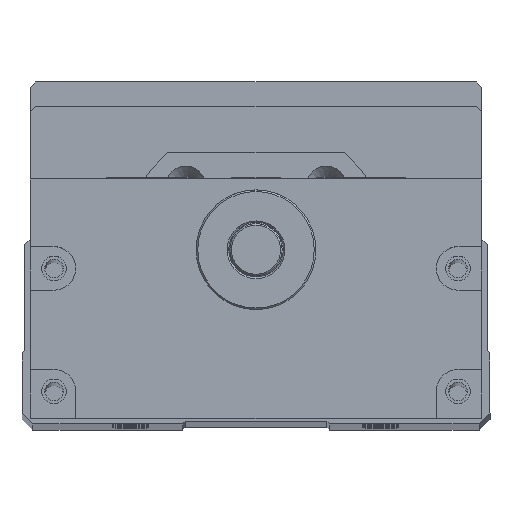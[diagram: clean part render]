
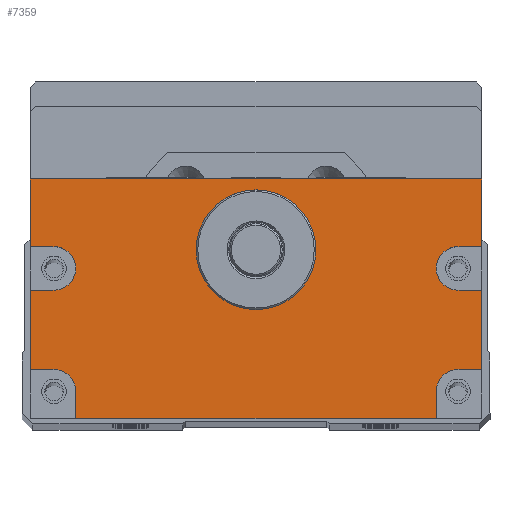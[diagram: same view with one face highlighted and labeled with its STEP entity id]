
A CAD part, top view. The second image highlights one B-rep face of the part: STEP entity #7359.
In plain terms, the highlighted planar face has unit normal (0, 0, 1).
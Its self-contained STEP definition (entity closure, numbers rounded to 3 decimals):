
#595=LINE('',#28877,#1312);
#597=LINE('',#28881,#1314);
#598=LINE('',#28884,#1315);
#599=LINE('',#28886,#1316);
#600=LINE('',#28890,#1317);
#601=LINE('',#28892,#1318);
#602=LINE('',#28893,#1319);
#603=LINE('',#28895,#1320);
#604=LINE('',#28899,#1321);
#605=LINE('',#28901,#1322);
#606=LINE('',#28903,#1323);
#607=LINE('',#28907,#1324);
#608=LINE('',#28909,#1325);
#609=LINE('',#28911,#1326);
#1312=VECTOR('',#17273,1.);
#1314=VECTOR('',#17277,1.);
#1315=VECTOR('',#17278,1.);
#1316=VECTOR('',#17279,1.);
#1317=VECTOR('',#17282,1.);
#1318=VECTOR('',#17283,1.);
#1319=VECTOR('',#17284,1.);
#1320=VECTOR('',#17285,1.);
#1321=VECTOR('',#17288,1.);
#1322=VECTOR('',#17289,1.);
#1323=VECTOR('',#17290,1.);
#1324=VECTOR('',#17293,1.);
#1325=VECTOR('',#17294,1.);
#1326=VECTOR('',#17295,1.);
#7359=ADVANCED_FACE('',(#8275,#8276),#7873,.T.);
#7873=PLANE('',#15719);
#8275=FACE_BOUND('',#8895,.T.);
#8276=FACE_BOUND('',#8896,.T.);
#8895=EDGE_LOOP('',(#10431,#10432,#10433,#10434,#10435,#10436,#10437,#10438,
#10439,#10440,#10441,#10442,#10443,#10444,#10445,#10446,#10447,#10448));
#8896=EDGE_LOOP('',(#10449));
#10431=ORIENTED_EDGE('',*,*,#13946,.F.);
#10432=ORIENTED_EDGE('',*,*,#13947,.T.);
#10433=ORIENTED_EDGE('',*,*,#13948,.F.);
#10434=ORIENTED_EDGE('',*,*,#13949,.F.);
#10435=ORIENTED_EDGE('',*,*,#13950,.F.);
#10436=ORIENTED_EDGE('',*,*,#13951,.T.);
#10437=ORIENTED_EDGE('',*,*,#13944,.T.);
#10438=ORIENTED_EDGE('',*,*,#13952,.T.);
#10439=ORIENTED_EDGE('',*,*,#13953,.F.);
#10440=ORIENTED_EDGE('',*,*,#13954,.F.);
#10441=ORIENTED_EDGE('',*,*,#13955,.F.);
#10442=ORIENTED_EDGE('',*,*,#13956,.T.);
#10443=ORIENTED_EDGE('',*,*,#13957,.F.);
#10444=ORIENTED_EDGE('',*,*,#13958,.F.);
#10445=ORIENTED_EDGE('',*,*,#13959,.F.);
#10446=ORIENTED_EDGE('',*,*,#13960,.T.);
#10447=ORIENTED_EDGE('',*,*,#13961,.F.);
#10448=ORIENTED_EDGE('',*,*,#13962,.F.);
#10449=ORIENTED_EDGE('',*,*,#13930,.T.);
#12761=VERTEX_POINT('',#28848);
#12774=VERTEX_POINT('',#28876);
#12775=VERTEX_POINT('',#28878);
#12776=VERTEX_POINT('',#28882);
#12777=VERTEX_POINT('',#28883);
#12778=VERTEX_POINT('',#28885);
#12779=VERTEX_POINT('',#28887);
#12780=VERTEX_POINT('',#28889);
#12781=VERTEX_POINT('',#28891);
#12782=VERTEX_POINT('',#28894);
#12783=VERTEX_POINT('',#28896);
#12784=VERTEX_POINT('',#28898);
#12785=VERTEX_POINT('',#28900);
#12786=VERTEX_POINT('',#28902);
#12787=VERTEX_POINT('',#28904);
#12788=VERTEX_POINT('',#28906);
#12789=VERTEX_POINT('',#28908);
#12790=VERTEX_POINT('',#28910);
#12791=VERTEX_POINT('',#28912);
#13930=EDGE_CURVE('',#12761,#12761,#15084,.T.);
#13944=EDGE_CURVE('',#12775,#12774,#595,.T.);
#13946=EDGE_CURVE('',#12776,#12777,#597,.T.);
#13947=EDGE_CURVE('',#12776,#12778,#598,.T.);
#13948=EDGE_CURVE('',#12779,#12778,#599,.T.);
#13949=EDGE_CURVE('',#12780,#12779,#15093,.T.);
#13950=EDGE_CURVE('',#12781,#12780,#600,.T.);
#13951=EDGE_CURVE('',#12781,#12775,#601,.T.);
#13952=EDGE_CURVE('',#12774,#12782,#602,.T.);
#13953=EDGE_CURVE('',#12783,#12782,#603,.T.);
#13954=EDGE_CURVE('',#12784,#12783,#15094,.T.);
#13955=EDGE_CURVE('',#12785,#12784,#604,.T.);
#13956=EDGE_CURVE('',#12785,#12786,#605,.T.);
#13957=EDGE_CURVE('',#12787,#12786,#606,.T.);
#13958=EDGE_CURVE('',#12788,#12787,#15095,.T.);
#13959=EDGE_CURVE('',#12789,#12788,#607,.T.);
#13960=EDGE_CURVE('',#12789,#12790,#608,.T.);
#13961=EDGE_CURVE('',#12791,#12790,#609,.T.);
#13962=EDGE_CURVE('',#12777,#12791,#15096,.T.);
#15084=CIRCLE('',#15703,11.);
#15093=CIRCLE('',#15715,4.);
#15094=CIRCLE('',#15716,4.);
#15095=CIRCLE('',#15717,4.);
#15096=CIRCLE('',#15718,4.);
#15703=AXIS2_PLACEMENT_3D('',#28847,#17246,#17247);
#15715=AXIS2_PLACEMENT_3D('',#28888,#17280,#17281);
#15716=AXIS2_PLACEMENT_3D('',#28897,#17286,#17287);
#15717=AXIS2_PLACEMENT_3D('',#28905,#17291,#17292);
#15718=AXIS2_PLACEMENT_3D('',#28913,#17296,#17297);
#15719=AXIS2_PLACEMENT_3D('',#28914,#17298,#17299);
#17246=DIRECTION('',(0.,0.,-1.));
#17247=DIRECTION('',(1.,0.,0.));
#17273=DIRECTION('',(-1.,0.,0.));
#17277=DIRECTION('',(-1.,0.,0.));
#17278=DIRECTION('',(0.,1.,0.));
#17279=DIRECTION('',(1.,0.,0.));
#17280=DIRECTION('',(0.,0.,1.));
#17281=DIRECTION('',(1.,0.,0.));
#17282=DIRECTION('',(-1.,0.,0.));
#17283=DIRECTION('',(0.,1.,0.));
#17284=DIRECTION('',(0.,-1.,0.));
#17285=DIRECTION('',(-1.,0.,0.));
#17286=DIRECTION('',(0.,0.,1.));
#17287=DIRECTION('',(1.,0.,0.));
#17288=DIRECTION('',(1.,0.,0.));
#17289=DIRECTION('',(0.,-1.,0.));
#17290=DIRECTION('',(-1.,0.,0.));
#17291=DIRECTION('',(0.,0.,1.));
#17292=DIRECTION('',(1.,0.,0.));
#17293=DIRECTION('',(0.,1.,0.));
#17294=DIRECTION('',(1.,0.,0.));
#17295=DIRECTION('',(0.,-1.,0.));
#17296=DIRECTION('',(0.,0.,1.));
#17297=DIRECTION('',(1.,0.,0.));
#17298=DIRECTION('',(0.,0.,1.));
#17299=DIRECTION('',(1.,0.,0.));
#28847=CARTESIAN_POINT('',(300.,0.,482.5));
#28848=CARTESIAN_POINT('',(311.,0.,482.5));
#28876=CARTESIAN_POINT('',(258.5,13.,482.5));
#28877=CARTESIAN_POINT('',(341.5,13.,482.5));
#28878=CARTESIAN_POINT('',(341.5,13.,482.5));
#28881=CARTESIAN_POINT('',(341.5,-22.,482.5));
#28882=CARTESIAN_POINT('',(341.5,-22.,482.5));
#28883=CARTESIAN_POINT('',(337.115,-22.,482.5));
#28884=CARTESIAN_POINT('',(341.5,-31.,482.5));
#28885=CARTESIAN_POINT('',(341.5,-7.431,482.5));
#28886=CARTESIAN_POINT('',(341.5,-7.431,482.5));
#28887=CARTESIAN_POINT('',(337.115,-7.431,482.5));
#28888=CARTESIAN_POINT('',(337.115,-3.431,482.5));
#28889=CARTESIAN_POINT('',(337.115,0.569,482.5));
#28890=CARTESIAN_POINT('',(341.5,0.569,482.5));
#28891=CARTESIAN_POINT('',(341.5,0.569,482.5));
#28892=CARTESIAN_POINT('',(341.5,-31.,482.5));
#28893=CARTESIAN_POINT('',(258.5,27.5,482.5));
#28894=CARTESIAN_POINT('',(258.5,0.569,482.5));
#28895=CARTESIAN_POINT('',(341.5,0.569,482.5));
#28896=CARTESIAN_POINT('',(262.885,0.569,482.5));
#28897=CARTESIAN_POINT('',(262.885,-3.431,482.5));
#28898=CARTESIAN_POINT('',(262.885,-7.431,482.5));
#28899=CARTESIAN_POINT('',(341.5,-7.431,482.5));
#28900=CARTESIAN_POINT('',(258.5,-7.431,482.5));
#28901=CARTESIAN_POINT('',(258.5,27.5,482.5));
#28902=CARTESIAN_POINT('',(258.5,-22.,482.5));
#28903=CARTESIAN_POINT('',(341.5,-22.,482.5));
#28904=CARTESIAN_POINT('',(262.885,-22.,482.5));
#28905=CARTESIAN_POINT('',(262.885,-26.,482.5));
#28906=CARTESIAN_POINT('',(266.885,-26.,482.5));
#28907=CARTESIAN_POINT('',(266.885,-31.,482.5));
#28908=CARTESIAN_POINT('',(266.885,-31.,482.5));
#28909=CARTESIAN_POINT('',(258.5,-31.,482.5));
#28910=CARTESIAN_POINT('',(333.115,-31.,482.5));
#28911=CARTESIAN_POINT('',(333.115,-31.,482.5));
#28912=CARTESIAN_POINT('',(333.115,-26.,482.5));
#28913=CARTESIAN_POINT('',(337.115,-26.,482.5));
#28914=CARTESIAN_POINT('',(341.5,-31.,482.5));
